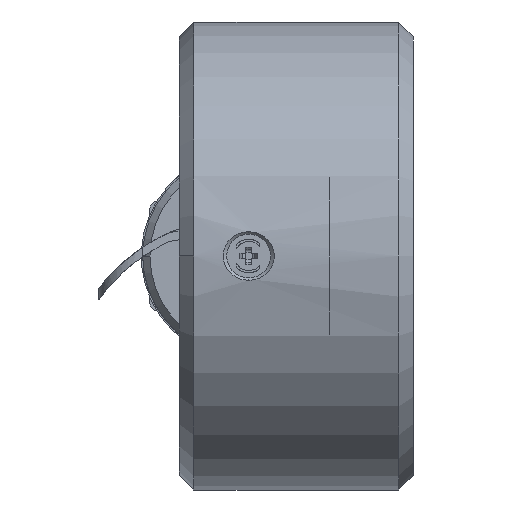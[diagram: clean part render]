
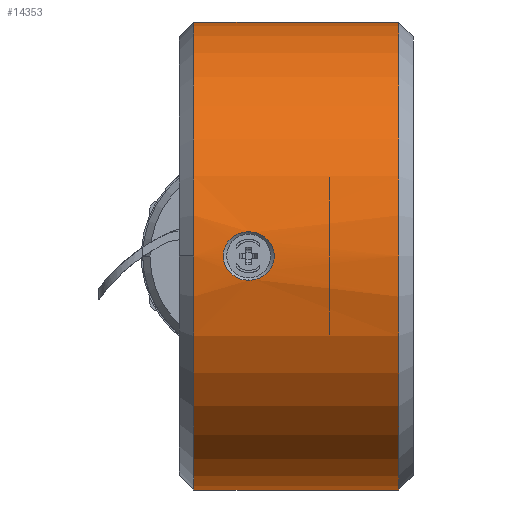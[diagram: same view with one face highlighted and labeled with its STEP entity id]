
A CAD part, left-side view. The second image highlights one B-rep face of the part: STEP entity #14353.
In plain terms, the highlighted cylindrical face has radius 16 mm (diameter 32 mm), a partial arc.
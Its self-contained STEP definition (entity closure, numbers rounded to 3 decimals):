
#282 = EDGE_CURVE ( 'NONE', #5222, #3751, #28869, .T. ) ;
#531 = ORIENTED_EDGE ( 'NONE', *, *, #3965, .F. ) ;
#3751 = VERTEX_POINT ( 'NONE', #36281 ) ;
#3965 = EDGE_CURVE ( 'NONE', #3751, #5222, #36736, .T. ) ;
#5222 = VERTEX_POINT ( 'NONE', #8623 ) ;
#5345 = EDGE_CURVE ( 'NONE', #5361, #6077, #8818, .T. ) ;
#5361 = VERTEX_POINT ( 'NONE', #8823 ) ;
#5418 = EDGE_CURVE ( 'NONE', #6008, #21889, #8967, .T. ) ;
#5969 = VERTEX_POINT ( 'NONE', #9931 ) ;
#6008 = VERTEX_POINT ( 'NONE', #10042 ) ;
#6056 = EDGE_CURVE ( 'NONE', #5969, #6008, #10103, .T. ) ;
#6077 = VERTEX_POINT ( 'NONE', #10179 ) ;
#8623 = CARTESIAN_POINT ( 'NONE',  ( -15.913, 11.25, 1.663 ) ) ;
#8784 = CARTESIAN_POINT ( 'NONE',  ( 0., 0., -16. ) ) ;
#8815 = DIRECTION ( 'NONE',  ( 0., -1., 0. ) ) ;
#8816 = VECTOR ( 'NONE', #8815, 1000. ) ;
#8818 = LINE ( 'NONE', #8784, #8816 ) ;
#8823 = CARTESIAN_POINT ( 'NONE',  ( 0., 15., -16. ) ) ;
#8965 = DIRECTION ( 'NONE',  ( 0., -1., 0. ) ) ;
#8966 = VECTOR ( 'NONE', #8965, 1000. ) ;
#8967 = LINE ( 'NONE', #8971, #8966 ) ;
#8971 = CARTESIAN_POINT ( 'NONE',  ( 0., 0., 16. ) ) ;
#9931 = CARTESIAN_POINT ( 'NONE',  ( -16., 15., 0. ) ) ;
#10042 = CARTESIAN_POINT ( 'NONE',  ( 0., 15., 16. ) ) ;
#10091 = DIRECTION ( 'NONE',  ( -1., 0., 0. ) ) ;
#10092 = AXIS2_PLACEMENT_3D ( 'NONE', #10097, #10112, #10091 ) ;
#10097 = CARTESIAN_POINT ( 'NONE',  ( 0., 15., 0. ) ) ;
#10103 = CIRCLE ( 'NONE', #10092, 16. ) ;
#10112 = DIRECTION ( 'NONE',  ( 0., 1., 0. ) ) ;
#10179 = CARTESIAN_POINT ( 'NONE',  ( 0., 1., -16. ) ) ;
#12448 = CARTESIAN_POINT ( 'NONE',  ( 0., 15., 0. ) ) ;
#12455 = DIRECTION ( 'NONE',  ( 0., 1., 0. ) ) ;
#12468 = CIRCLE ( 'NONE', #12473, 16. ) ;
#12473 = AXIS2_PLACEMENT_3D ( 'NONE', #12448, #12455, #12507 ) ;
#12501 = DIRECTION ( 'NONE',  ( 0., 0., -1. ) ) ;
#12502 = DIRECTION ( 'NONE',  ( 0., 1., 0. ) ) ;
#12503 = CARTESIAN_POINT ( 'NONE',  ( 0., 1., 0. ) ) ;
#12504 = AXIS2_PLACEMENT_3D ( 'NONE', #12503, #12502, #12501 ) ;
#12507 = DIRECTION ( 'NONE',  ( -1., 0., 0. ) ) ;
#12517 = CIRCLE ( 'NONE', #12504, 16. ) ;
#12527 = DIRECTION ( 'NONE',  ( 0., -1., 0. ) ) ;
#12528 = AXIS2_PLACEMENT_3D ( 'NONE', #12545, #12527, #12543 ) ;
#12530 = FACE_BOUND ( 'NONE', #37661, .T. ) ;
#12531 = CYLINDRICAL_SURFACE ( 'NONE', #12528, 16. ) ;
#12532 = FACE_OUTER_BOUND ( 'NONE', #14340, .T. ) ;
#12543 = DIRECTION ( 'NONE',  ( 0., 0., -1. ) ) ;
#12545 = CARTESIAN_POINT ( 'NONE',  ( 0., 0., 0. ) ) ;
#14309 = ORIENTED_EDGE ( 'NONE', *, *, #282, .F. ) ;
#14332 = EDGE_CURVE ( 'NONE', #5361, #5969, #12468, .T. ) ;
#14333 = EDGE_CURVE ( 'NONE', #6077, #21889, #12517, .T. ) ;
#14339 = ORIENTED_EDGE ( 'NONE', *, *, #14333, .T. ) ;
#14340 = EDGE_LOOP ( 'NONE', ( #14348, #14342, #14341, #14349, #14339 ) ) ;
#14341 = ORIENTED_EDGE ( 'NONE', *, *, #14332, .F. ) ;
#14342 = ORIENTED_EDGE ( 'NONE', *, *, #6056, .F. ) ;
#14348 = ORIENTED_EDGE ( 'NONE', *, *, #5418, .F. ) ;
#14349 = ORIENTED_EDGE ( 'NONE', *, *, #5345, .T. ) ;
#14353 = ADVANCED_FACE ( 'NONE', ( #12532, #12530 ), #12531, .T. ) ;
#18313 = CARTESIAN_POINT ( 'NONE',  ( 0., 1., 16. ) ) ;
#21889 = VERTEX_POINT ( 'NONE', #18313 ) ;
#28826 = CARTESIAN_POINT ( 'NONE',  ( -15.944, 12.308, -1.342 ) ) ;
#28828 = CARTESIAN_POINT ( 'NONE',  ( -15.961, 12.553, -1.115 ) ) ;
#28830 = CARTESIAN_POINT ( 'NONE',  ( -15.967, 12.628, -1.03 ) ) ;
#28831 = CARTESIAN_POINT ( 'NONE',  ( -15.978, 12.759, -0.849 ) ) ;
#28833 = CARTESIAN_POINT ( 'NONE',  ( -15.983, 12.815, -0.752 ) ) ;
#28834 = CARTESIAN_POINT ( 'NONE',  ( -15.995, 12.952, -0.445 ) ) ;
#28836 = CARTESIAN_POINT ( 'NONE',  ( -16., 13., -0.222 ) ) ;
#28838 = CARTESIAN_POINT ( 'NONE',  ( -16., 13., 0.114 ) ) ;
#28840 = CARTESIAN_POINT ( 'NONE',  ( -15.999, 12.988, 0.225 ) ) ;
#28841 = CARTESIAN_POINT ( 'NONE',  ( -15.994, 12.941, 0.443 ) ) ;
#28843 = CARTESIAN_POINT ( 'NONE',  ( -15.991, 12.905, 0.551 ) ) ;
#28844 = CARTESIAN_POINT ( 'NONE',  ( -15.978, 12.768, 0.856 ) ) ;
#28846 = CARTESIAN_POINT ( 'NONE',  ( -15.967, 12.633, 1.041 ) ) ;
#28862 = CARTESIAN_POINT ( 'NONE',  ( -15.944, 12.307, 1.342 ) ) ;
#28863 = CARTESIAN_POINT ( 'NONE',  ( -15.933, 12.113, 1.462 ) ) ;
#28864 = CARTESIAN_POINT ( 'NONE',  ( -15.918, 11.698, 1.622 ) ) ;
#28865 = CARTESIAN_POINT ( 'NONE',  ( -15.913, 11.473, 1.663 ) ) ;
#28866 = CARTESIAN_POINT ( 'NONE',  ( -15.913, 11.25, 1.663 ) ) ;
#28869 = B_SPLINE_CURVE_WITH_KNOTS ( 'NONE', 3,
 ( #28866, #28865, #28864, #28863, #28862, #28846, #28844, #28843, #28841, #28840, #28838, #28836, #28834, #28833, #28831, #28830, #28828, #28826, #28959, #28958, #28957, #28956 ),
 .UNSPECIFIED., .F., .F.,
 ( 4, 2, 2, 2, 2, 2, 2, 2, 2, 2, 4 ),
 ( 0.004, 0.005, 0.005, 0.006, 0.006, 0.007, 0.007, 0.008, 0.008, 0.009, 0.009 ),
 .UNSPECIFIED. ) ;
#28956 = CARTESIAN_POINT ( 'NONE',  ( -15.913, 11.25, -1.663 ) ) ;
#28957 = CARTESIAN_POINT ( 'NONE',  ( -15.913, 11.473, -1.663 ) ) ;
#28958 = CARTESIAN_POINT ( 'NONE',  ( -15.918, 11.698, -1.622 ) ) ;
#28959 = CARTESIAN_POINT ( 'NONE',  ( -15.933, 12.113, -1.462 ) ) ;
#36281 = CARTESIAN_POINT ( 'NONE',  ( -15.913, 11.25, -1.663 ) ) ;
#36714 = CARTESIAN_POINT ( 'NONE',  ( -15.983, 9.685, 0.752 ) ) ;
#36715 = CARTESIAN_POINT ( 'NONE',  ( -15.991, 9.594, 0.548 ) ) ;
#36716 = CARTESIAN_POINT ( 'NONE',  ( -15.994, 9.559, 0.443 ) ) ;
#36717 = CARTESIAN_POINT ( 'NONE',  ( -15.999, 9.512, 0.224 ) ) ;
#36718 = CARTESIAN_POINT ( 'NONE',  ( -16., 9.5, 0.111 ) ) ;
#36719 = CARTESIAN_POINT ( 'NONE',  ( -16., 9.5, -0.222 ) ) ;
#36720 = CARTESIAN_POINT ( 'NONE',  ( -15.995, 9.548, -0.447 ) ) ;
#36721 = CARTESIAN_POINT ( 'NONE',  ( -15.983, 9.685, -0.751 ) ) ;
#36722 = CARTESIAN_POINT ( 'NONE',  ( -15.978, 9.741, -0.849 ) ) ;
#36727 = CARTESIAN_POINT ( 'NONE',  ( -15.967, 9.872, -1.03 ) ) ;
#36728 = CARTESIAN_POINT ( 'NONE',  ( -15.961, 9.946, -1.114 ) ) ;
#36729 = CARTESIAN_POINT ( 'NONE',  ( -15.944, 10.193, -1.343 ) ) ;
#36730 = CARTESIAN_POINT ( 'NONE',  ( -15.933, 10.387, -1.462 ) ) ;
#36731 = CARTESIAN_POINT ( 'NONE',  ( -15.922, 10.699, -1.582 ) ) ;
#36732 = CARTESIAN_POINT ( 'NONE',  ( -15.919, 10.806, -1.612 ) ) ;
#36733 = CARTESIAN_POINT ( 'NONE',  ( -15.914, 11.026, -1.653 ) ) ;
#36734 = CARTESIAN_POINT ( 'NONE',  ( -15.913, 11.139, -1.663 ) ) ;
#36735 = CARTESIAN_POINT ( 'NONE',  ( -15.913, 11.25, -1.663 ) ) ;
#36736 = B_SPLINE_CURVE_WITH_KNOTS ( 'NONE', 3,
 ( #36735, #36734, #36733, #36732, #36731, #36730, #36729, #36728, #36727, #36722, #36721, #36720, #36719, #36718, #36717, #36716, #36715, #36714, #36764, #36763, #36762, #36761, #36760, #36759, #36758, #36757, #36756, #36755, #36754, #36753 ),
 .UNSPECIFIED., .F., .F.,
 ( 4, 2, 2, 2, 2, 2, 2, 2, 2, 2, 2, 2, 2, 2, 4 ),
 ( 0.009, 0.01, 0.01, 0.011, 0.011, 0.011, 0.012, 0.012, 0.013, 0.013, 0.013, 0.014, 0.014, 0.014, 0.015 ),
 .UNSPECIFIED. ) ;
#36753 = CARTESIAN_POINT ( 'NONE',  ( -15.913, 11.25, 1.663 ) ) ;
#36754 = CARTESIAN_POINT ( 'NONE',  ( -15.913, 11.139, 1.663 ) ) ;
#36755 = CARTESIAN_POINT ( 'NONE',  ( -15.914, 11.026, 1.653 ) ) ;
#36756 = CARTESIAN_POINT ( 'NONE',  ( -15.919, 10.806, 1.612 ) ) ;
#36757 = CARTESIAN_POINT ( 'NONE',  ( -15.922, 10.699, 1.582 ) ) ;
#36758 = CARTESIAN_POINT ( 'NONE',  ( -15.929, 10.491, 1.502 ) ) ;
#36759 = CARTESIAN_POINT ( 'NONE',  ( -15.934, 10.389, 1.452 ) ) ;
#36760 = CARTESIAN_POINT ( 'NONE',  ( -15.944, 10.2, 1.335 ) ) ;
#36761 = CARTESIAN_POINT ( 'NONE',  ( -15.95, 10.111, 1.267 ) ) ;
#36762 = CARTESIAN_POINT ( 'NONE',  ( -15.961, 9.947, 1.115 ) ) ;
#36763 = CARTESIAN_POINT ( 'NONE',  ( -15.967, 9.872, 1.031 ) ) ;
#36764 = CARTESIAN_POINT ( 'NONE',  ( -15.978, 9.742, 0.85 ) ) ;
#37661 = EDGE_LOOP ( 'NONE', ( #14309, #531 ) ) ;
